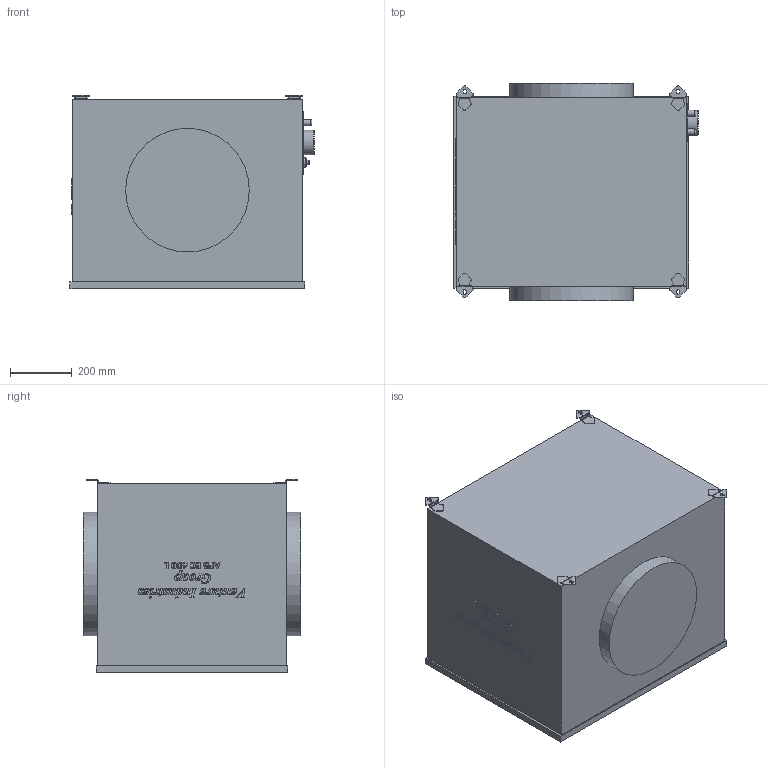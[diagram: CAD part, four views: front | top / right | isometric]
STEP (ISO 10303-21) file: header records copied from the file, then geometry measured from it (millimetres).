
FILE_DESCRIPTION(/* description */ (''),/* implementation_level */ '2;1');
FILE_NAME(/* name */ 'D:\Piotr - Dokumenty\Modele uproszczone\AFB EC\AFB_EC_400_L\AFB_EC_400_L.stp',/* time_stamp */ '2021-03-23T11:57:12+01:00',/* author */ ('Piotr.Nowotniak'),/* organization */ (''),/* preprocessor_version */ 'ST-DEVELOPER v18',/* originating_system */ 'Autodesk Inventor 2020',/* authorisation */ '');
FILE_SCHEMA (('AUTOMOTIVE_DESIGN { 1 0 10303 214 3 1 1 }'));
Length unit declared in the file: millimetre
Products named in the file (1): AFB_EC_400_L
Bounding box: 789.5 x 703.6 x 624.96 mm (x, y, z)
Volume: 291890915.4 mm3; surface area: 2763117.9 mm2
Topology: 1 solids, 1 shells, 797 faces, 2194 edges, 1456 vertices
Faces by surface type: bspline 370, plane 339, cylinder 83, torus 5
Full cylindrical faces by diameter (mm): 15 x1, 20.2 x2, 30 x1, 80 x1, 400 x2
Entity records: 31587 total; most frequent: CARTESIAN_POINT 13389, ORIENTED_EDGE 4388, DIRECTION 2471, EDGE_CURVE 2194, VERTEX_POINT 1456, LINE 1293, VECTOR 1293, EDGE_LOOP 862
